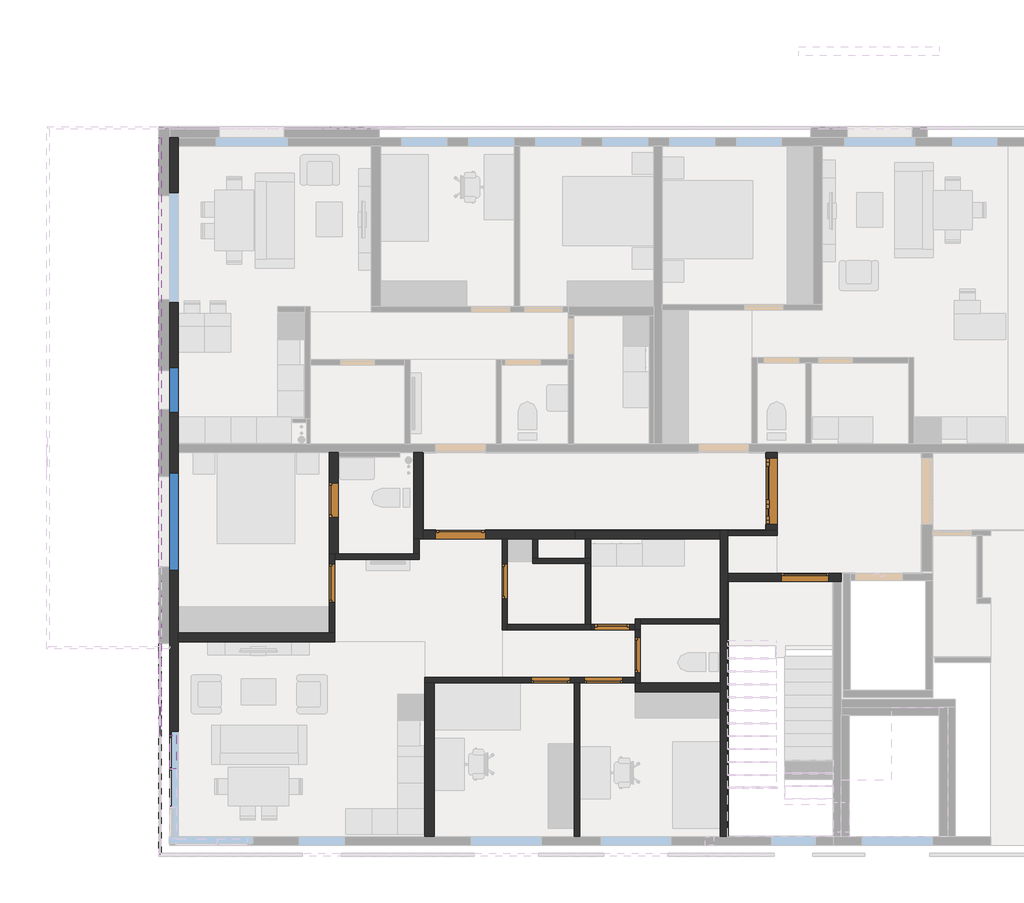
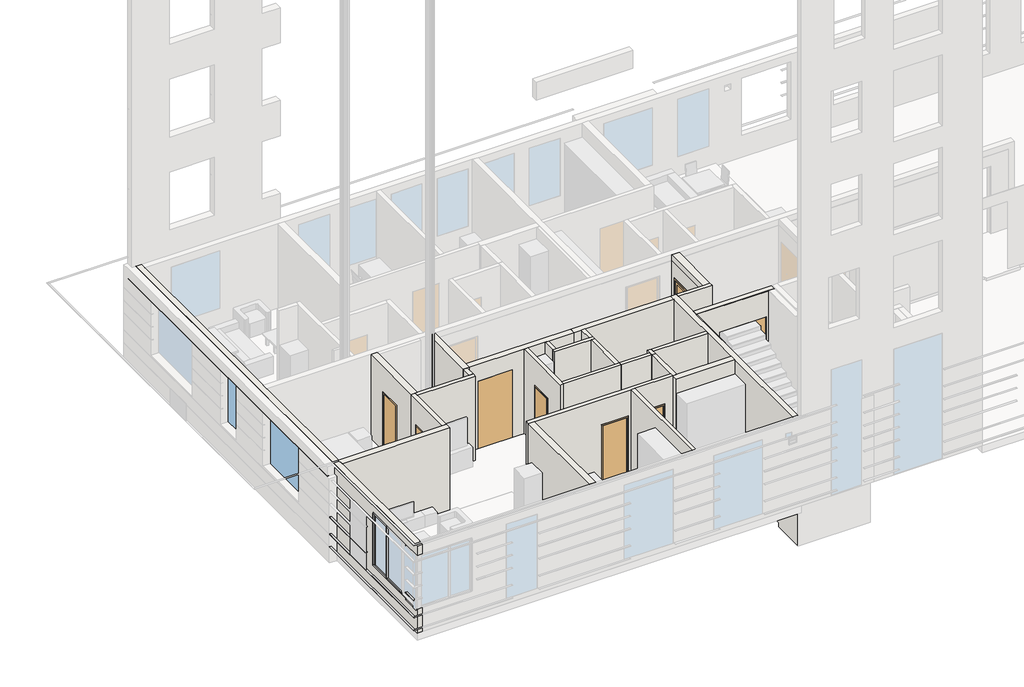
# One storey, part 2 of 11: 32 walls, 20 doors, 5 members, 4 proxies, 2 windows, 1 plate.
"""IFC4 building model written with IfcOpenShell, lengths in millimetres."""

from ifc_helpers import new_model, si_unit, frame, origin, place, context, project, spatial, polyline, outline, extrude, faceted_brep, transform, mapped, element, save
from components import door_d7ee00cb, door_0ca1aa13, door_1f93f5fc, door_3b0bb860, door_b8e875bd, door_c12ba408, door_6199b08a, door_73803761, door_87123fce, door_1132ae02, door_2b45e898, door_fcd13b85, door_ca2bc70d, rectangular_mullion_150x50_083f1865, rectangular_mullion_150x50_dc2b1c3d, rectangular_mullion_150x50_5dc04e1f, rectangular_mullion_150x50_35d6a770, system_panel_83626b8a, window_588b83ed, window_6eaa91db

model = new_model("IFC4")

# Units and contexts
model_context = context("Model", 3, world=origin())
ifc_project = project(units=[si_unit("LENGTHUNIT", "METRE", prefix="MILLI")], contexts=[model_context])

# Site, building, storey
site = spatial("IfcSite", under=ifc_project)
building = spatial("IfcBuilding", under=site)
storey = spatial("IfcBuildingStorey", under=building, Name="02_+4,400_Ж", Elevation=1200.0)

# Proxies
placement = place(None, origin())
element("IfcBuildingElementProxy", 1, Name="Reveals", at=placement, inside=storey, context=model_context, shape_type="SweptSolid", body=[
    extrude(outline(polyline([(128730.0000001, 127799.9999987), (128790.0000001, 127799.9999987), (128790.0000001, 116199.9999987), (128730.0000001, 116199.9999987), (128730.0000001, 127799.9999987)])), frame((0.0, 0.0, 3850.0), z_axis=(0.0, 0.0, 1.0), x_axis=(1.0, 0.0, 0.0)), (0.0, 0.0, 1.0), 5.0),
])
element("IfcBuildingElementProxy", 2, Name="Reveals", at=placement, inside=storey, context=model_context, shape_type="SweptSolid", body=[
    extrude(outline(polyline([(128730.0000001, 116074.9999987), (128790.0000001, 116074.9999987), (128790.0000001, 113979.9999987), (128730.0000001, 113979.9999987), (128730.0000001, 116074.9999987)])), frame((0.0, 0.0, 2485.0), z_axis=(0.0, 0.0, 1.0), x_axis=(1.0, 0.0, 0.0)), (0.0, 0.0, 1.0), 5.0),
    extrude(outline(polyline([(128730.0000001, 111639.9999987), (128790.0000001, 111639.9999987), (128790.0000001, 111209.9999987), (128730.0000001, 111149.9999987), (128730.0000001, 111639.9999987)])), frame((0.0, 0.0, 2485.0), z_axis=(0.0, 0.0, 1.0), x_axis=(1.0, 0.0, 0.0)), (0.0, 0.0, 1.0), 5.0),
])
element("IfcBuildingElementProxy", 3, Name="Reveals", at=placement, inside=storey, context=model_context, shape_type="SweptSolid", body=[
    extrude(outline(polyline([(128730.0000001, 116074.9999987), (128790.0000001, 116074.9999987), (128790.0000001, 111209.9999987), (128730.0000001, 111149.9999987), (128730.0000001, 116074.9999987)])), frame((0.0, 0.0, 1880.0), z_axis=(0.0, 0.0, 1.0), x_axis=(1.0, 0.0, 0.0)), (0.0, 0.0, 1.0), 5.0),
])
element("IfcBuildingElementProxy", 4, Name="Reveals", at=placement, inside=storey, context=model_context, shape_type="SweptSolid", body=[
    extrude(outline(polyline([(128730.0000001, 116074.9999987), (128790.0000001, 116074.9999987), (128790.0000001, 111209.9999987), (128730.0000001, 111149.9999987), (128730.0000001, 116074.9999987)])), frame((0.0, 0.0, 1425.0), z_axis=(0.0, 0.0, 1.0), x_axis=(1.0, 0.0, 0.0)), (0.0, 0.0, 1.0), 5.0),
])

# Doors
door_shape = door_d7ee00cb(model_context)
element("IfcDoor", 5, ObjectType="Dr_Проем-Простой : ДВ", at=placement, inside=storey, context=model_context, shape_type="MappedRepresentation", body=[
    mapped(door_shape, transform((143494.6769838, 117609.9999987, 1200.0), x_axis=(1.0, 0.0, 0.0), y_axis=(0.0, 1.0, 0.0), z_axis=(0.0, 0.0, 1.0))),
])
door_2_shape = door_0ca1aa13(model_context)
element("IfcDoor", 6, ObjectType="Dr_Проем-Простой : ДВ", at=placement, inside=storey, context=model_context, shape_type="MappedRepresentation", body=[
    mapped(door_2_shape, transform((142925.0000002, 119399.6769824, 1200.0), x_axis=(0.0, 1.0, 0.0), y_axis=(-1.0, 0.0, 0.0), z_axis=(0.0, 0.0, 1.0))),
])
door_3_shape = door_1f93f5fc(model_context)
element("IfcDoor", 7, ObjectType="Dr_Проем-Простой : ДВ", at=placement, inside=storey, context=model_context, shape_type="MappedRepresentation", body=[
    mapped(door_3_shape, transform((135509.6769838, 118599.9999987, 1200.0), x_axis=(1.0, 0.0, 0.0), y_axis=(0.0, 1.0, 0.0), z_axis=(0.0, 0.0, 1.0))),
])
door_4_shape = door_3b0bb860(model_context)
element("IfcDoor", 8, ObjectType="Dr_Проем-Простой : ДВ", at=placement, inside=storey, context=model_context, shape_type="MappedRepresentation", body=[
    mapped(door_4_shape, transform((139822.5000001, 115599.6769824, 1200.0), x_axis=(0.0, 1.0, 0.0), y_axis=(-1.0, 0.0, 0.0), z_axis=(0.0, 0.0, 1.0))),
])
element("IfcDoor", 9, ObjectType="Dr_Проем-Простой : ДВ", at=placement, inside=storey, context=model_context, shape_type="MappedRepresentation", body=[
    mapped(door_4_shape, transform((139024.6769838, 116452.4999987, 1200.0), x_axis=(1.0, 0.0, 0.0), y_axis=(0.0, 1.0, 0.0), z_axis=(0.0, 0.0, 1.0))),
])
door_5_shape = door_b8e875bd(model_context)
element("IfcDoor", 10, ObjectType="Dr_Проем-Простой : ДВ", at=placement, inside=storey, context=model_context, shape_type="MappedRepresentation", body=[
    mapped(door_5_shape, transform((132742.5000001, 117269.6769824, 1200.0), x_axis=(0.0, 1.0, 0.0), y_axis=(-1.0, 0.0, 0.0), z_axis=(0.0, 0.0, 1.0))),
])
element("IfcDoor", 11, ObjectType="Dr_Проем-Простой : ДВ", at=placement, inside=storey, context=model_context, shape_type="MappedRepresentation", body=[
    mapped(door_5_shape, transform((138010.3230165, 115227.4999987, 1200.0), x_axis=(-1.0, 0.0, 0.0), y_axis=(0.0, -1.0, 0.0), z_axis=(0.0, 0.0, 1.0))),
])
element("IfcDoor", 12, ObjectType="Dr_Проем-Простой : ДВ", at=placement, inside=storey, context=model_context, shape_type="MappedRepresentation", body=[
    mapped(door_5_shape, transform((139235.3230165, 115227.4999987, 1200.0), x_axis=(-1.0, 0.0, 0.0), y_axis=(0.0, -1.0, 0.0), z_axis=(0.0, 0.0, 1.0))),
])
element("IfcDoor", 13, ObjectType="Dr_Проем-Простой : ДВ", at=placement, inside=storey, context=model_context, shape_type="MappedRepresentation", body=[
    mapped(door_4_shape, transform((136742.5000001, 117309.6769824, 1200.0), x_axis=(0.0, 1.0, 0.0), y_axis=(-1.0, 0.0, 0.0), z_axis=(0.0, 0.0, 1.0))),
])
door_6_shape = door_c12ba408(model_context)
element("IfcDoor", 14, ObjectType="Dr_Проем-Простой : ДВ", at=placement, inside=storey, context=model_context, shape_type="MappedRepresentation", body=[
    mapped(door_6_shape, transform((132785.0000001, 119194.6769824, 1200.0), x_axis=(0.0, 1.0, 0.0), y_axis=(-1.0, 0.0, 0.0), z_axis=(0.0, 0.0, 1.0))),
])
door_7_shape = door_6199b08a(model_context)
element("IfcDoor", 15, ObjectType="Dr_Дверь_v2.1 : ДМ Мд1 Зв3 Оп Г Брг 21-9", at=placement, inside=storey, context=model_context, shape_type="MappedRepresentation", body=[
    mapped(door_7_shape, transform((132742.5000001, 117349.9999987, 1200.0), x_axis=(0.0, 1.0, 0.0), y_axis=(-1.0, 0.0, 0.0), z_axis=(0.0, 0.0, 1.0))),
])
door_8_shape = door_73803761(model_context)
element("IfcDoor", 16, ObjectType="Dr_Дверь_v2.1 : ДВПС Оп Г 24-11,5 Л EI30", at=placement, inside=storey, context=model_context, shape_type="MappedRepresentation", body=[
    mapped(door_8_shape, transform((135590.0000001, 118599.9999987, 1200.0), x_axis=(1.0, 0.0, 0.0), y_axis=(0.0, 1.0, 0.0), z_axis=(0.0, 0.0, 1.0))),
])
door_9_shape = door_87123fce(model_context)
element("IfcDoor", 17, ObjectType="Dr_Дверь_v2.1 : ДМ Мд1 Зв3 Оп Г Брг 21-9 Л", at=placement, inside=storey, context=model_context, shape_type="MappedRepresentation", body=[
    mapped(door_9_shape, transform((139155.0000001, 115227.4999987, 1200.0), x_axis=(-1.0, 0.0, 0.0), y_axis=(0.0, -1.0, 0.0), z_axis=(0.0, 0.0, 1.0))),
])
door_10_shape = door_1132ae02(model_context)
element("IfcDoor", 18, ObjectType="Dr_Дверь_v2.1 : ДС Мд1 Оп Г Брг 21-8", at=placement, inside=storey, context=model_context, shape_type="MappedRepresentation", body=[
    mapped(door_10_shape, transform((139105.0000001, 116452.4999987, 1200.0), x_axis=(1.0, 0.0, 0.0), y_axis=(0.0, 1.0, 0.0), z_axis=(0.0, 0.0, 1.0))),
])
element("IfcDoor", 19, ObjectType="Dr_Дверь_v2.1 : ДМ Мд1 Зв3 Оп Г Брг 21-9", at=placement, inside=storey, context=model_context, shape_type="MappedRepresentation", body=[
    mapped(door_7_shape, transform((137930.0000001, 115227.4999987, 1200.0), x_axis=(-1.0, 0.0, 0.0), y_axis=(0.0, -1.0, 0.0), z_axis=(0.0, 0.0, 1.0))),
])
element("IfcDoor", 20, ObjectType="Dr_Дверь_v2.1 : ДС Мд1 Оп Г Брг 21-8", at=placement, inside=storey, context=model_context, shape_type="MappedRepresentation", body=[
    mapped(door_10_shape, transform((139822.5000001, 115679.9999987, 1200.0), x_axis=(0.0, 1.0, 0.0), y_axis=(-1.0, 0.0, 0.0), z_axis=(0.0, 0.0, 1.0))),
])
element("IfcDoor", 21, ObjectType="Dr_Дверь_v2.1 : ДМ Мд1 Оп Г Брг 21-8", at=placement, inside=storey, context=model_context, shape_type="MappedRepresentation", body=[
    mapped(door_10_shape, transform((136742.5000001, 117389.9999987, 1200.0), x_axis=(0.0, 1.0, 0.0), y_axis=(-1.0, 0.0, 0.0), z_axis=(0.0, 0.0, 1.0))),
])
door_11_shape = door_2b45e898(model_context)
element("IfcDoor", 22, ObjectType="Dr_Дверь_v2.1 : ДС Мд1 Оп Г Брг 21-8 Л", at=placement, inside=storey, context=model_context, shape_type="MappedRepresentation", body=[
    mapped(door_11_shape, transform((132785.0000001, 119274.9999987, 1200.0), x_axis=(0.0, 1.0, 0.0), y_axis=(-1.0, 0.0, 0.0), z_axis=(0.0, 0.0, 1.0))),
])
door_12_shape = door_fcd13b85(model_context)
element("IfcDoor", 23, ObjectType="Dr_Дверь_v2.1 : ДВСТД Оп Ос 21-11 EIS60", at=placement, inside=storey, context=model_context, shape_type="MappedRepresentation", body=[
    mapped(door_12_shape, transform((143575.0000001, 117609.9999987, 1200.0), x_axis=(1.0, 0.0, 0.0), y_axis=(0.0, 1.0, 0.0), z_axis=(0.0, 0.0, 1.0))),
])
door_13_shape = door_ca2bc70d(model_context)
element("IfcDoor", 24, ObjectType="Dr_Дверь_v2.1 : ДВСТД Дп Ос 23-15 EIS60", at=placement, inside=storey, context=model_context, shape_type="MappedRepresentation", body=[
    mapped(door_13_shape, transform((142925.0000002, 119479.9999987, 1200.0), x_axis=(0.0, 1.0, 0.0), y_axis=(-1.0, 0.0, 0.0), z_axis=(0.0, 0.0, 1.0))),
])

# Members
rectangular_mullion_150x50_shape = rectangular_mullion_150x50_083f1865(model_context)
element("IfcMember", 25, ObjectType="Rectangular Mullion : 150x50", at=placement, inside=storey, context=model_context, shape_type="MappedRepresentation", body=[
    mapped(rectangular_mullion_150x50_shape, transform((129055.0000001, 113174.9999987, 2000.0), x_axis=(0.0, -1.0, 0.0), y_axis=(-1.0, 0.0, 0.0), z_axis=(0.0, 0.0, -1.0))),
])
rectangular_mullion_150x50_2_shape = rectangular_mullion_150x50_dc2b1c3d(model_context)
element("IfcMember", 26, ObjectType="Rectangular Mullion : 150x50", at=placement, inside=storey, context=model_context, shape_type="MappedRepresentation", body=[
    mapped(rectangular_mullion_150x50_2_shape, transform((129055.0000001, 113949.9999987, 3800.0), x_axis=(0.0, 1.0, 0.0), y_axis=(-1.0, 0.0, 0.0), z_axis=(0.0, 0.0, 1.0))),
])
rectangular_mullion_150x50_3_shape = rectangular_mullion_150x50_5dc04e1f(model_context)
element("IfcMember", 27, ObjectType="Rectangular Mullion : 150x50", at=placement, inside=storey, context=model_context, shape_type="MappedRepresentation", body=[
    mapped(rectangular_mullion_150x50_3_shape, transform((129055.0000001, 113949.9999987, 1950.0), x_axis=(0.0, 0.0, -1.0), y_axis=(-1.0, 0.0, 0.0), z_axis=(0.0, 1.0, 0.0))),
])
rectangular_mullion_150x50_4_shape = rectangular_mullion_150x50_35d6a770(model_context)
element("IfcMember", 28, ObjectType="Rectangular Mullion : 150x50", at=placement, inside=storey, context=model_context, shape_type="MappedRepresentation", body=[
    mapped(rectangular_mullion_150x50_4_shape, transform((129055.0000001, 113174.9999987, 1950.0), x_axis=(0.0, 0.0, -1.0), y_axis=(-1.0, 0.0, 0.0), z_axis=(0.0, 1.0, 0.0))),
])
element("IfcMember", 29, ObjectType="Rectangular Mullion : 150x50", at=placement, inside=storey, context=model_context, shape_type="MappedRepresentation", body=[
    mapped(rectangular_mullion_150x50_3_shape, transform((129055.0000001, 113174.9999987, 3850.0), x_axis=(0.0, 0.0, 1.0), y_axis=(-1.0, 0.0, 0.0), z_axis=(0.0, -1.0, 0.0))),
])

# Plate
system_panel_shape = system_panel_83626b8a(model_context)
element("IfcPlate", 30, ObjectType="System Panel : стекло_смещение_0", at=placement, inside=storey, context=model_context, shape_type="MappedRepresentation", body=[
    mapped(system_panel_shape, transform((129055.0000001, 113549.9999987, 2000.0), x_axis=(0.0, -1.0, 0.0), y_axis=(1.0, 0.0, 0.0), z_axis=(0.0, 0.0, 1.0))),
])

# Walls
element("IfcWall", 31, ObjectType="BW_SUB_SKZ_INT_80+40+80=200_Тип П7-------", at=placement, inside=storey, context=model_context, shape_type="Brep", body=[
    faceted_brep([(134840.0000001, 118499.9999987, 1100.0), (134840.0000001, 118699.9999987, 1100.0), (134840.0000001, 120499.9999987, 1100.0), (134840.0000001, 120499.9999987, 4200.0), (134840.0000001, 118699.9999987, 4200.0), (134840.0000001, 118499.9999987, 4200.0), (134640.0000001, 118499.9999987, 1100.0), (134640.0000001, 118499.9999987, 4200.0), (134640.0000001, 120499.9999987, 4200.0), (134640.0000001, 120499.9999987, 1100.0)], [[[0, 1, 2, 3, 4, 5]], [[6, 7, 8, 9]], [[2, 1, 0, 6, 9]], [[3, 2, 9, 8]], [[5, 4, 3, 8, 7]], [[0, 5, 7, 6]]]),
])
element("IfcWall", 32, ObjectType="BW_SUB_GKL_INT_125_Тип П9.1-------", at=placement, inside=storey, context=model_context, shape_type="Brep", body=[
    faceted_brep([(136680.0000001, 116389.9999987, 4200.0), (136680.0000001, 118499.9999987, 4200.0), (136680.0000001, 118499.9999987, 1180.0), (136680.0000001, 117914.9999987, 1180.0), (136680.0000001, 117914.9999987, 3300.0), (136680.0000001, 117114.9999987, 3300.0), (136680.0000001, 117114.9999987, 1180.0), (136680.0000001, 116389.9999987, 1180.0), (136805.0000001, 118499.9999987, 4200.0), (136805.0000001, 116514.9999987, 4200.0), (136805.0000001, 116389.9999987, 4200.0), (136805.0000001, 116389.9999987, 1180.0), (136805.0000001, 116514.9999987, 1180.0), (136805.0000001, 117114.9999987, 1180.0), (136805.0000001, 117114.9999987, 3300.0), (136805.0000001, 117914.9999987, 3300.0), (136805.0000001, 117914.9999987, 1180.0), (136805.0000001, 118499.9999987, 1180.0)], [[[0, 1, 2, 3, 4, 5, 6, 7]], [[8, 9, 10, 11, 12, 13, 14, 15, 16, 17]], [[2, 17, 16, 3]], [[11, 7, 6, 13, 12]], [[1, 0, 10, 9, 8]], [[2, 1, 8, 17]], [[5, 14, 13, 6]], [[15, 4, 3, 16]], [[14, 5, 4, 15]], [[0, 7, 11, 10]]]),
])
element("IfcWall", 33, ObjectType="BW_SUB_GKL_INT_125_Тип П9.3-------", at=placement, inside=storey, context=model_context, shape_type="Brep", body=[
    faceted_brep([(139760.0000001, 116649.9999987, 1180.0), (139760.0000001, 116514.9999987, 1180.0), (139760.0000001, 116389.9999987, 1180.0), (139760.0000001, 116389.9999987, 4200.0), (139760.0000001, 116514.9999987, 4200.0), (139760.0000001, 116649.9999987, 4200.0), (139885.0000001, 116649.9999987, 1180.0), (139885.0000001, 116649.9999987, 4200.0), (139885.0000001, 116524.9999987, 4200.0), (139885.0000001, 116389.9999987, 4200.0), (139885.0000001, 116389.9999987, 1180.0), (139885.0000001, 116524.9999987, 1180.0)], [[[0, 1, 2, 3, 4, 5]], [[6, 7, 8, 9, 10, 11]], [[2, 1, 0, 6, 11, 10]], [[5, 4, 3, 9, 8, 7]], [[0, 5, 7, 6]], [[3, 2, 10, 9]]]),
])
element("IfcWall", 34, ObjectType="BW_SUB_GKL_INT_125_Тип П9.1-------", at=placement, inside=storey, context=model_context, shape_type="Brep", body=[
    faceted_brep([(139760.0000001, 115164.9999987, 1180.0), (139760.0000001, 115164.9999987, 4200.0), (138480.0000001, 115164.9999987, 4200.0), (138355.0000001, 115164.9999987, 4200.0), (135105.0000001, 115164.9999987, 4200.0), (134895.0000001, 115164.9999987, 4200.0), (134895.0000001, 115164.9999987, 1180.0), (135105.0000001, 115164.9999987, 1180.0), (137355.0000001, 115164.9999987, 1180.0), (137355.0000001, 115164.9999987, 3300.0), (138255.0000001, 115164.9999987, 3300.0), (138255.0000001, 115164.9999987, 1180.0), (138355.0000001, 115164.9999987, 1180.0), (138480.0000001, 115164.9999987, 1180.0), (138580.0000001, 115164.9999987, 1180.0), (138580.0000001, 115164.9999987, 3300.0), (139480.0000001, 115164.9999987, 3300.0), (139480.0000001, 115164.9999987, 1180.0), (139760.0000001, 115289.9999987, 4200.0), (139760.0000001, 115289.9999987, 1180.0), (139480.0000001, 115289.9999987, 1180.0), (139480.0000001, 115289.9999987, 3300.0), (138580.0000001, 115289.9999987, 3300.0), (138580.0000001, 115289.9999987, 1180.0), (138255.0000001, 115289.9999987, 1180.0), (138255.0000001, 115289.9999987, 3300.0), (137355.0000001, 115289.9999987, 3300.0), (137355.0000001, 115289.9999987, 1180.0), (134895.0000001, 115289.9999987, 1180.0), (134895.0000001, 115289.9999987, 4200.0)], [[[0, 1, 2, 3, 4, 5, 6, 7, 8, 9, 10, 11, 12, 13, 14, 15, 16, 17]], [[18, 19, 20, 21, 22, 23, 24, 25, 26, 27, 28, 29]], [[11, 24, 23, 14, 13, 12]], [[27, 8, 7, 6, 28]], [[19, 0, 17, 20]], [[1, 0, 19, 18]], [[5, 4, 3, 2, 1, 18, 29]], [[11, 10, 25, 24]], [[9, 8, 27, 26]], [[10, 9, 26, 25]], [[28, 6, 5, 29]], [[16, 21, 20, 17]], [[22, 15, 14, 23]], [[21, 16, 15, 22]]]),
])
element("IfcWall", 35, ObjectType="BW_SUB_GKL_INT_125_Тип П9.1-------", at=placement, inside=storey, context=model_context, shape_type="SweptSolid", body=[
    extrude(outline(polyline([(138355.0000001, 111599.9999987), (138355.0000001, 115164.9999987), (138480.0000001, 115164.9999987), (138480.0000001, 111599.9999987), (138355.0000001, 111599.9999987)])), frame((0.0, 0.0, 1180.0), z_axis=(0.0, 0.0, 1.0), x_axis=(1.0, 0.0, 0.0)), (0.0, 0.0, 1.0), 3020.0),
])
element("IfcWall", 36, ObjectType="BW_SUB_GKL_INT_210_Тип П10.2-------", at=placement, inside=storey, context=model_context, shape_type="Brep", body=[
    faceted_brep([(139760.0000001, 114954.9999987, 1180.0), (141730.0000002, 114954.9999987, 1180.0), (141730.0000002, 114954.9999987, 4200.0), (139760.0000001, 114954.9999987, 4200.0), (139760.0000001, 115164.9999987, 1180.0), (139760.0000001, 115164.9999987, 4200.0), (139885.0000001, 115164.9999987, 4200.0), (141730.0000002, 115164.9999987, 4200.0), (141730.0000002, 115164.9999987, 1180.0), (139885.0000001, 115164.9999987, 1180.0)], [[[0, 1, 2, 3]], [[4, 5, 6, 7, 8, 9]], [[1, 0, 4, 9, 8]], [[2, 1, 8, 7]], [[3, 2, 7, 6, 5]], [[0, 3, 5, 4]]]),
])
element("IfcWall", 37, ObjectType="BW_SUB_GKL_INT_125_Тип П9.2-------", at=placement, inside=storey, context=model_context, shape_type="SweptSolid", body=[
    extrude(outline(polyline([(138730.0000001, 117929.9999987), (138730.0000001, 116514.9999987), (138605.0000001, 116514.9999987), (138605.0000001, 117929.9999987), (138730.0000001, 117929.9999987)])), frame((0.0, 0.0, 1180.0), z_axis=(0.0, 0.0, 1.0), x_axis=(1.0, 0.0, 0.0)), (0.0, 0.0, 1.0), 3020.0),
])
element("IfcWall", 38, ObjectType="BW_SUB_GKL_INT_125_Тип П9.1-------", at=placement, inside=storey, context=model_context, shape_type="Brep", body=[
    faceted_brep([(136805.0000001, 116389.9999987, 1180.0), (138730.0000001, 116389.9999987, 1180.0), (138730.0000001, 116389.9999987, 4200.0), (136805.0000001, 116389.9999987, 4200.0), (136805.0000001, 116514.9999987, 1180.0), (136805.0000001, 116514.9999987, 4200.0), (138605.0000001, 116514.9999987, 4200.0), (138730.0000001, 116514.9999987, 4200.0), (138730.0000001, 116514.9999987, 1180.0), (138605.0000001, 116514.9999987, 1180.0)], [[[0, 1, 2, 3]], [[4, 5, 6, 7, 8, 9]], [[1, 0, 4, 9, 8]], [[3, 2, 7, 6, 5]], [[0, 3, 5, 4]], [[2, 1, 8, 7]]]),
])
element("IfcWall", 39, ObjectType="BW_SUB_GKL_INT_210_Тип П10.1-------", at=placement, inside=storey, context=model_context, shape_type="SweptSolid", body=[
    extrude(outline(polyline([(134895.0000001, 111599.9999987), (134895.0000001, 115164.9999987), (135105.0000001, 115164.9999987), (135105.0000001, 111599.9999987), (134895.0000001, 111599.9999987)])), frame((0.0, 0.0, 1180.0), z_axis=(0.0, 0.0, 1.0), x_axis=(1.0, 0.0, 0.0)), (0.0, 0.0, 1.0), 3020.0),
])
element("IfcWall", 40, ObjectType="BW_SUB_GKL_INT_210_Тип П10.1-------", at=placement, inside=storey, context=model_context, shape_type="Brep", body=[
    faceted_brep([(129180.0000001, 116114.9999987, 1180.0), (132805.0000001, 116114.9999987, 1180.0), (132805.0000001, 116114.9999987, 4200.0), (129180.0000001, 116114.9999987, 4200.0), (129180.0000001, 116324.9999987, 1180.0), (129180.0000001, 116324.9999987, 4200.0), (132680.0000001, 116324.9999987, 4200.0), (132805.0000001, 116324.9999987, 4200.0), (132805.0000001, 116324.9999987, 1180.0), (132680.0000001, 116324.9999987, 1180.0)], [[[0, 1, 2, 3]], [[4, 5, 6, 7, 8, 9]], [[1, 0, 4, 9, 8]], [[3, 2, 7, 6, 5]], [[0, 3, 5, 4]], [[2, 1, 8, 7]]]),
])
element("IfcWall", 41, ObjectType="BW_SUB_GKL_INT_125_Тип П9.1-------", at=placement, inside=storey, context=model_context, shape_type="Brep", body=[
    faceted_brep([(132805.0000001, 118149.9999987, 4200.0), (132805.0000001, 118024.9999987, 4200.0), (132805.0000001, 116324.9999987, 4200.0), (132805.0000001, 116324.9999987, 1180.0), (132805.0000001, 117024.9999987, 1180.0), (132805.0000001, 117024.9999987, 3300.0), (132805.0000001, 117924.9999987, 3300.0), (132805.0000001, 117924.9999987, 1180.0), (132805.0000001, 118024.9999987, 1180.0), (132805.0000001, 118149.9999987, 1180.0), (132680.0000001, 116324.9999987, 4200.0), (132680.0000001, 118149.9999987, 4200.0), (132680.0000001, 118149.9999987, 1180.0), (132680.0000001, 117924.9999987, 1180.0), (132680.0000001, 117924.9999987, 3300.0), (132680.0000001, 117024.9999987, 3300.0), (132680.0000001, 117024.9999987, 1180.0), (132680.0000001, 116324.9999987, 1180.0)], [[[0, 1, 2, 3, 4, 5, 6, 7, 8, 9]], [[10, 11, 12, 13, 14, 15, 16, 17]], [[3, 17, 16, 4]], [[12, 9, 8, 7, 13]], [[2, 1, 0, 11, 10]], [[3, 2, 10, 17]], [[15, 5, 4, 16]], [[6, 14, 13, 7]], [[5, 15, 14, 6]], [[0, 9, 12, 11]]]),
])
element("IfcWall", 42, ObjectType="BW_SUB_GKL_INT_125_Тип П9.2-------", at=placement, inside=storey, context=model_context, shape_type="Brep", body=[
    faceted_brep([(132805.0000001, 118024.9999987, 1180.0), (134765.0000001, 118024.9999987, 1180.0), (134765.0000001, 118024.9999987, 4200.0), (132805.0000001, 118024.9999987, 4200.0), (132805.0000001, 118149.9999987, 1180.0), (132805.0000001, 118149.9999987, 4200.0), (132890.0000001, 118149.9999987, 4200.0), (134640.0000001, 118149.9999987, 4200.0), (134765.0000001, 118149.9999987, 4200.0), (134765.0000001, 118149.9999987, 1180.0), (134640.0000001, 118149.9999987, 1180.0), (132890.0000001, 118149.9999987, 1180.0)], [[[0, 1, 2, 3]], [[4, 5, 6, 7, 8, 9, 10, 11]], [[1, 0, 4, 11, 10, 9]], [[3, 2, 8, 7, 6, 5]], [[2, 1, 9, 8]], [[0, 3, 5, 4]]]),
])
element("IfcWall", 43, ObjectType="BW_SUB_GKL_INT_125_Тип П9.2-------", at=placement, inside=storey, context=model_context, shape_type="SweptSolid", body=[
    extrude(outline(polyline([(134765.0000001, 118499.9999987), (134765.0000001, 118149.9999987), (134640.0000001, 118149.9999987), (134640.0000001, 118499.9999987), (134765.0000001, 118499.9999987)])), frame((0.0, 0.0, 1180.0), z_axis=(0.0, 0.0, 1.0), x_axis=(1.0, 0.0, 0.0)), (0.0, 0.0, 1.0), 3020.0),
])
element("IfcWall", 44, ObjectType="BW_SUB_GKL_INT_210_Тип П10.2-------", at=placement, inside=storey, context=model_context, shape_type="Brep", body=[
    faceted_brep([(132890.0000001, 120499.9999987, 1180.0), (132890.0000001, 120499.9999987, 4200.0), (132890.0000001, 118149.9999987, 4200.0), (132890.0000001, 118149.9999987, 1180.0), (132890.0000001, 118999.9999987, 1180.0), (132890.0000001, 118999.9999987, 3300.0), (132890.0000001, 119799.9999987, 3300.0), (132890.0000001, 119799.9999987, 1180.0), (132680.0000001, 120499.9999987, 4200.0), (132680.0000001, 120499.9999987, 1180.0), (132680.0000001, 119799.9999987, 1180.0), (132680.0000001, 119799.9999987, 3300.0), (132680.0000001, 118999.9999987, 3300.0), (132680.0000001, 118999.9999987, 1180.0), (132680.0000001, 118149.9999987, 1180.0), (132680.0000001, 118149.9999987, 4200.0), (132805.0000001, 118149.9999987, 1180.0), (132805.0000001, 118149.9999987, 4200.0)], [[[0, 1, 2, 3, 4, 5, 6, 7]], [[8, 9, 10, 11, 12, 13, 14, 15]], [[9, 0, 7, 10]], [[3, 16, 14, 13, 4]], [[1, 0, 9, 8]], [[2, 1, 8, 15, 17]], [[12, 5, 4, 13]], [[6, 11, 10, 7]], [[5, 12, 11, 6]], [[3, 2, 17, 15, 14, 16]]]),
])
element("IfcWall", 45, ObjectType="BW_SUB_BrF_INT_120_Тип П1-------", at=placement, inside=storey, context=model_context, shape_type="Brep", body=[
    faceted_brep([(138730.0000001, 118049.9999987, 1100.0), (138610.0000001, 118049.9999987, 1100.0), (137510.0000001, 118049.9999987, 1100.0), (137390.0000001, 118049.9999987, 1100.0), (137390.0000001, 118049.9999987, 4200.0), (137510.0000001, 118049.9999987, 4200.0), (138610.0000001, 118049.9999987, 4200.0), (138730.0000001, 118049.9999987, 4200.0), (138730.0000001, 117929.9999987, 1100.0), (138730.0000001, 117929.9999987, 4200.0), (137390.0000001, 117929.9999987, 4200.0), (137390.0000001, 117929.9999987, 1100.0)], [[[0, 1, 2, 3, 4, 5, 6, 7]], [[8, 9, 10, 11]], [[3, 2, 1, 0, 8, 11]], [[7, 6, 5, 4, 10, 9]], [[4, 3, 11, 10]], [[0, 7, 9, 8]]]),
])
element("IfcWall", 46, ObjectType="BW_SUB_BrF_INT_120_Тип П1-------", at=placement, inside=storey, context=model_context, shape_type="SweptSolid", body=[
    extrude(outline(polyline([(137510.0000001, 118499.9999987), (137510.0000001, 118049.9999987), (137390.0000001, 118049.9999987), (137390.0000001, 118499.9999987), (137510.0000001, 118499.9999987)])), frame((0.0, 0.0, 1100.0), z_axis=(0.0, 0.0, 1.0), x_axis=(1.0, 0.0, 0.0)), (0.0, 0.0, 1.0), 3100.0),
])
element("IfcWall", 47, ObjectType="BW_SUB_BrF_INT_120_Тип П1-------", at=placement, inside=storey, context=model_context, shape_type="SweptSolid", body=[
    extrude(outline(polyline([(138730.0000001, 118499.9999987), (138730.0000001, 118049.9999987), (138610.0000001, 118049.9999987), (138610.0000001, 118499.9999987), (138730.0000001, 118499.9999987)])), frame((0.0, 0.0, 1100.0), z_axis=(0.0, 0.0, 1.0), x_axis=(1.0, 0.0, 0.0)), (0.0, 0.0, 1.0), 3100.0),
])
element("IfcWall", 48, ObjectType="BW_SUB_GKL_INT_125_Тип П9.3-------", at=placement, inside=storey, context=model_context, shape_type="SweptSolid", body=[
    extrude(outline(polyline([(141730.0000002, 116524.9999987), (139885.0000001, 116524.9999987), (139885.0000001, 116649.9999987), (141730.0000002, 116649.9999987), (141730.0000002, 116524.9999987)])), frame((0.0, 0.0, 1180.0), z_axis=(0.0, 0.0, 1.0), x_axis=(1.0, 0.0, 0.0)), (0.0, 0.0, 1.0), 3020.0),
])
element("IfcWall", 49, ObjectType="BW_SUB_SKZ_INT_80+40+80=200_Тип П7-------", at=placement, inside=storey, context=model_context, shape_type="Brep", body=[
    faceted_brep([(134840.0000001, 118699.9999987, 4200.0), (138360.0000002, 118699.9999987, 4200.0), (138360.0000002, 118699.9999987, 1100.0), (136290.0000001, 118699.9999987, 1100.0), (136290.0000001, 118699.9999987, 1200.0), (136290.0000001, 118699.9999987, 3600.0), (135140.0000001, 118699.9999987, 3600.0), (135140.0000001, 118699.9999987, 1200.0), (135140.0000001, 118699.9999987, 1100.0), (134840.0000001, 118699.9999987, 1100.0), (138360.0000002, 118499.9999987, 4200.0), (134840.0000001, 118499.9999987, 4200.0), (134840.0000001, 118499.9999987, 1100.0), (135140.0000001, 118499.9999987, 1100.0), (135140.0000001, 118499.9999987, 3600.0), (136290.0000001, 118499.9999987, 3600.0), (136290.0000001, 118499.9999987, 1100.0), (138360.0000002, 118499.9999987, 1100.0)], [[[0, 1, 2, 3, 4, 5, 6, 7, 8, 9]], [[10, 11, 12, 13, 14, 15, 16, 17]], [[2, 17, 16, 3]], [[12, 9, 8, 13]], [[1, 0, 11, 10]], [[2, 1, 10, 17]], [[0, 9, 12, 11]], [[6, 14, 13, 8, 7]], [[15, 5, 4, 3, 16]], [[14, 6, 5, 15]]]),
])
element("IfcWall", 50, ObjectType="BW_SUB_BrF_INT_250_Тип П2-------", at=placement, inside=storey, context=model_context, shape_type="Brep", body=[
    faceted_brep([(143050.0000002, 120499.9999987, 1100.0), (143050.0000002, 120499.9999987, 4200.0), (143050.0000002, 118699.9999987, 4200.0), (143050.0000002, 118699.9999987, 1100.0), (143050.0000002, 118839.9999987, 1100.0), (143050.0000002, 118839.9999987, 3500.0), (143050.0000002, 120369.9999987, 3500.0), (143050.0000002, 120369.9999987, 1100.0), (142800.0000002, 120499.9999987, 4200.0), (142800.0000002, 120499.9999987, 1100.0), (142800.0000002, 120369.9999987, 1100.0), (142800.0000002, 120369.9999987, 1200.0), (142800.0000002, 120369.9999987, 3500.0), (142800.0000002, 118839.9999987, 3500.0), (142800.0000002, 118839.9999987, 1200.0), (142800.0000002, 118839.9999987, 1100.0), (142800.0000002, 118699.9999987, 1100.0), (142800.0000002, 118699.9999987, 4200.0)], [[[0, 1, 2, 3, 4, 5, 6, 7]], [[8, 9, 10, 11, 12, 13, 14, 15, 16, 17]], [[9, 0, 7, 10]], [[3, 16, 15, 4]], [[1, 0, 9, 8]], [[2, 1, 8, 17]], [[13, 5, 4, 15, 14]], [[6, 12, 11, 10, 7]], [[5, 13, 12, 6]], [[3, 2, 17, 16]]]),
])
element("IfcWall", 51, ObjectType="BW_SUB_BrF_INT_120_Тип П1-------", at=placement, inside=storey, context=model_context, shape_type="Brep", body=[
    faceted_brep([(143050.0000002, 118699.9999987, 1100.0), (142800.0000002, 118699.9999987, 1100.0), (141910.0000002, 118699.9999987, 1100.0), (141910.0000002, 118699.9999987, 4200.0), (142800.0000002, 118699.9999987, 4200.0), (143050.0000002, 118699.9999987, 4200.0), (143050.0000002, 118579.9999987, 1100.0), (143050.0000002, 118579.9999987, 4200.0), (141910.0000002, 118579.9999987, 4200.0), (141910.0000002, 118579.9999987, 1100.0)], [[[0, 1, 2, 3, 4, 5]], [[6, 7, 8, 9]], [[2, 1, 0, 6, 9]], [[3, 2, 9, 8]], [[5, 4, 3, 8, 7]], [[0, 5, 7, 6]]]),
])
element("IfcWall", 52, ObjectType="BW_FN2_10_внутр отделка МОП-------", at=placement, inside=storey, context=model_context, shape_type="Brep", body=[
    faceted_brep([(134840.0000001, 120489.9999987, 1200.0), (134840.0000001, 118699.9999987, 1200.0), (134840.0000001, 118699.9999987, 4000.0), (134840.0000001, 120489.9999987, 4000.0), (134850.0000001, 120489.9999987, 1200.0), (134850.0000001, 120489.9999987, 4000.0), (134850.0000001, 118709.9999987, 4000.0), (134850.0000001, 118699.9999987, 4000.0), (134850.0000001, 118699.9999987, 1200.0), (134850.0000001, 118709.9999987, 1200.0)], [[[0, 1, 2, 3]], [[4, 5, 6, 7, 8, 9]], [[1, 0, 4, 9, 8]], [[3, 2, 7, 6, 5]], [[2, 1, 8, 7]], [[0, 3, 5, 4]]]),
])
element("IfcWall", 53, ObjectType="BW_FN2_10_внутр отделка МОП-------", at=placement, inside=storey, context=model_context, shape_type="Brep", body=[
    faceted_brep([(142800.0000002, 118699.9999987, 4000.0), (134850.0000001, 118699.9999987, 4000.0), (134850.0000001, 118699.9999987, 1200.0), (135140.0000001, 118699.9999987, 1200.0), (135140.0000001, 118699.9999987, 3600.0), (136290.0000001, 118699.9999987, 3600.0), (136290.0000001, 118699.9999987, 1200.0), (142800.0000002, 118699.9999987, 1200.0), (134850.0000001, 118709.9999987, 4000.0), (142790.0000002, 118709.9999987, 4000.0), (142800.0000002, 118709.9999987, 4000.0), (142800.0000002, 118709.9999987, 1200.0), (142790.0000002, 118709.9999987, 1200.0), (136290.0000001, 118709.9999987, 1200.0), (136290.0000001, 118709.9999987, 3600.0), (135140.0000001, 118709.9999987, 3600.0), (135140.0000001, 118709.9999987, 1200.0), (134850.0000001, 118709.9999987, 1200.0)], [[[0, 1, 2, 3, 4, 5, 6, 7]], [[8, 9, 10, 11, 12, 13, 14, 15, 16, 17]], [[11, 7, 6, 13, 12]], [[2, 17, 16, 3]], [[1, 0, 10, 9, 8]], [[0, 7, 11, 10]], [[2, 1, 8, 17]], [[15, 4, 3, 16]], [[5, 14, 13, 6]], [[4, 15, 14, 5]]]),
])
element("IfcWall", 54, ObjectType="BW_FN2_10_внутр отделка МОП-------", at=placement, inside=storey, context=model_context, shape_type="SweptSolid", body=[
    extrude(outline(polyline([(118709.9999987, 4000.0), (120489.9999987, 4000.0), (120489.9999987, 1200.0), (120369.9999987, 1200.0), (120369.9999987, 3500.0), (118839.9999987, 3500.0), (118839.9999987, 1200.0), (118709.9999987, 1200.0), (118709.9999987, 4000.0)])), frame((142790.0000002, 0.0, 0.0), z_axis=(1.0, 0.0, 0.0), x_axis=(0.0, 1.0, 0.0)), (0.0, 0.0, 1.0), 10.0),
])
element("IfcWall", 55, ObjectType="BW_FN2_10_внутр отделка ЛК-------", at=placement, inside=storey, context=model_context, shape_type="Brep", body=[
    faceted_brep([(141910.0000002, 117519.9999987, 4200.0), (144350.0000001, 117519.9999987, 4200.0), (144350.0000001, 117519.9999987, 1200.0), (144250.0000001, 117519.9999987, 1200.0), (144250.0000001, 117519.9999987, 3300.0), (143150.0000001, 117519.9999987, 3300.0), (143150.0000001, 117519.9999987, 1200.0), (141910.0000002, 117519.9999987, 1200.0), (144350.0000001, 117509.9999987, 4200.0), (141920.0000002, 117509.9999987, 4200.0), (141910.0000002, 117509.9999987, 4200.0), (141910.0000002, 117509.9999987, 1200.0), (141920.0000002, 117509.9999987, 1200.0), (143150.0000001, 117509.9999987, 1200.0), (143150.0000001, 117509.9999987, 3300.0), (144250.0000001, 117509.9999987, 3300.0), (144250.0000001, 117509.9999987, 1200.0), (144350.0000001, 117509.9999987, 1200.0)], [[[0, 1, 2, 3, 4, 5, 6, 7]], [[8, 9, 10, 11, 12, 13, 14, 15, 16, 17]], [[11, 7, 6, 13, 12]], [[2, 17, 16, 3]], [[1, 0, 10, 9, 8]], [[0, 7, 11, 10]], [[5, 14, 13, 6]], [[15, 4, 3, 16]], [[14, 5, 4, 15]], [[17, 2, 1, 8]]]),
])
element("IfcWall", 56, ObjectType="BW_FN2_10_внутр отделка ЛК-------", at=placement, inside=storey, context=model_context, shape_type="Brep", body=[
    faceted_brep([(141920.0000002, 111609.9999987, -450.0), (141920.0000002, 112719.9999987, -450.0), (141920.0000002, 112719.9999987, -300.0), (141920.0000002, 113019.9999987, -300.0), (141920.0000002, 113019.9999987, -150.0), (141920.0000002, 113319.9999987, -150.0), (141920.0000002, 113319.9999987, 0.0), (141920.0000002, 113619.9999987, 0.0), (141920.0000002, 113619.9999987, 150.0), (141920.0000002, 113919.9999987, 150.0), (141920.0000002, 113919.9999987, 300.0), (141920.0000002, 114219.9999987, 300.0), (141920.0000002, 114219.9999987, 450.0), (141920.0000002, 114519.9999987, 450.0), (141920.0000002, 114519.9999987, 600.0), (141920.0000002, 114819.9999987, 600.0), (141920.0000002, 114819.9999987, 750.0), (141920.0000002, 115119.9999987, 750.0), (141920.0000002, 115119.9999987, 900.0), (141920.0000002, 115419.9999987, 900.0), (141920.0000002, 115419.9999987, 1050.0), (141920.0000002, 115719.9999987, 1050.0), (141920.0000002, 115719.9999987, 1200.0), (141920.0000002, 117509.9999987, 1200.0), (141920.0000002, 117509.9999987, 4200.0), (141920.0000002, 115872.7708751, 4200.0), (141920.0000002, 113149.9999987, 2841.1145618), (141920.0000002, 113149.9999987, 2620.0), (141920.0000002, 111609.9999987, 2620.0), (141910.0000002, 111609.9999987, -450.0), (141910.0000002, 111609.9999987, 2600.0), (141910.0000002, 111609.9999987, 2620.0), (141910.0000002, 113149.9999987, 2620.0), (141910.0000002, 113149.9999987, 2841.1145618), (141910.0000002, 115872.7708751, 4200.0), (141910.0000002, 117509.9999987, 4200.0), (141910.0000002, 117509.9999987, 1200.0), (141910.0000002, 115719.9999987, 1200.0), (141910.0000002, 115719.9999987, 1050.0), (141910.0000002, 115419.9999987, 1050.0), (141910.0000002, 115419.9999987, 900.0), (141910.0000002, 115119.9999987, 900.0), (141910.0000002, 115119.9999987, 750.0), (141910.0000002, 114819.9999987, 750.0), (141910.0000002, 114819.9999987, 600.0), (141910.0000002, 114519.9999987, 600.0), (141910.0000002, 114519.9999987, 450.0), (141910.0000002, 114219.9999987, 450.0), (141910.0000002, 114219.9999987, 300.0), (141910.0000002, 113919.9999987, 300.0), (141910.0000002, 113919.9999987, 150.0), (141910.0000002, 113619.9999987, 150.0), (141910.0000002, 113619.9999987, 0.0), (141910.0000002, 113319.9999987, 0.0), (141910.0000002, 113319.9999987, -150.0), (141910.0000002, 113019.9999987, -150.0), (141910.0000002, 113019.9999987, -300.0), (141910.0000002, 112719.9999987, -300.0), (141910.0000002, 112719.9999987, -450.0)], [[[0, 1, 2, 3, 4, 5, 6, 7, 8, 9, 10, 11, 12, 13, 14, 15, 16, 17, 18, 19, 20, 21, 22, 23, 24, 25, 26, 27, 28]], [[29, 30, 31, 32, 33, 34, 35, 36, 37, 38, 39, 40, 41, 42, 43, 44, 45, 46, 47, 48, 49, 50, 51, 52, 53, 54, 55, 56, 57, 58]], [[23, 22, 37, 36]], [[25, 24, 35, 34]], [[1, 0, 29, 58]], [[2, 1, 58, 57]], [[3, 2, 57, 56]], [[4, 3, 56, 55]], [[5, 4, 55, 54]], [[6, 5, 54, 53]], [[7, 6, 53, 52]], [[8, 7, 52, 51]], [[9, 8, 51, 50]], [[10, 9, 50, 49]], [[11, 10, 49, 48]], [[12, 11, 48, 47]], [[13, 12, 47, 46]], [[14, 13, 46, 45]], [[15, 14, 45, 44]], [[16, 15, 44, 43]], [[17, 16, 43, 42]], [[18, 17, 42, 41]], [[19, 18, 41, 40]], [[20, 19, 40, 39]], [[21, 20, 39, 38]], [[22, 21, 38, 37]], [[26, 25, 34, 33]], [[27, 26, 33, 32]], [[28, 27, 32, 31]], [[0, 28, 31, 30, 29]], [[24, 23, 36, 35]]]),
])
element("IfcWall", 57, ObjectType="BW_SUB_GKL_INT_125_Тип П9.2-------", at=placement, inside=storey, context=model_context, shape_type="SweptSolid", body=[
    extrude(outline(polyline([(4200.0, 139760.0000001), (4200.0, 138730.0000001), (1180.0, 138730.0000001), (1180.0, 138830.0000001), (3300.0, 138830.0000001), (3300.0, 139630.0000001), (1180.0, 139630.0000001), (1180.0, 139760.0000001), (4200.0, 139760.0000001)])), frame((0.0, 116389.9999987, 0.0), z_axis=(0.0, 1.0, 0.0), x_axis=(0.0, 0.0, 1.0)), (0.0, 0.0, 1.0), 125.0),
])
element("IfcWall", 58, ObjectType="BW_SUB_GKL_INT_125_Тип П9.2-------", at=placement, inside=storey, context=model_context, shape_type="Brep", body=[
    faceted_brep([(139760.0000001, 115164.9999987, 4200.0), (139760.0000001, 115289.9999987, 4200.0), (139760.0000001, 116389.9999987, 4200.0), (139760.0000001, 116389.9999987, 1180.0), (139760.0000001, 116204.9999987, 1180.0), (139760.0000001, 116204.9999987, 3300.0), (139760.0000001, 115404.9999987, 3300.0), (139760.0000001, 115404.9999987, 1180.0), (139760.0000001, 115289.9999987, 1180.0), (139760.0000001, 115164.9999987, 1180.0), (139885.0000001, 116389.9999987, 4200.0), (139885.0000001, 115164.9999987, 4200.0), (139885.0000001, 115164.9999987, 1180.0), (139885.0000001, 115404.9999987, 1180.0), (139885.0000001, 115404.9999987, 3300.0), (139885.0000001, 116204.9999987, 3300.0), (139885.0000001, 116204.9999987, 1180.0), (139885.0000001, 116389.9999987, 1180.0)], [[[0, 1, 2, 3, 4, 5, 6, 7, 8, 9]], [[10, 11, 12, 13, 14, 15, 16, 17]], [[3, 17, 16, 4]], [[12, 9, 8, 7, 13]], [[2, 1, 0, 11, 10]], [[6, 14, 13, 7]], [[15, 5, 4, 16]], [[14, 6, 5, 15]], [[3, 2, 10, 17]], [[0, 9, 12, 11]]]),
])
element("IfcWall", 59, ObjectType="BW_STR_CIP_UP_EXT_200-------", at=placement, inside=storey, context=model_context, shape_type="Brep", body=[
    faceted_brep([(129180.0000001, 111399.9999987, 1098.886009), (129180.0000001, 127599.9999987, 1098.886009), (129180.0000001, 127799.9999987, 1098.886009), (129180.0000001, 127799.9999987, 4200.0), (129180.0000001, 127599.9999987, 4200.0), (129180.0000001, 120699.9999987, 4200.0), (129180.0000001, 120499.9999987, 4200.0), (129180.0000001, 111599.9999987, 4200.0), (129180.0000001, 111399.9999987, 4200.0), (129180.0000001, 111399.9999987, 3810.0), (129180.0000001, 111449.9999987, 3810.0), (129180.0000001, 111449.9999987, 3860.0), (129180.0000001, 111599.9999987, 3860.0), (129180.0000001, 114029.9999987, 3860.0), (129180.0000001, 114029.9999987, 1890.0), (129180.0000001, 111599.9999987, 1890.0), (129180.0000001, 111449.9999987, 1890.0), (129180.0000001, 111449.9999987, 1950.0), (129180.0000001, 111399.9999987, 1950.0), (129180.0000001, 111399.9999987, 1100.0), (129180.0000001, 121429.9999987, 1880.0), (129180.0000001, 121429.9999987, 3920.0), (129180.0000001, 122469.9999987, 3920.0), (129180.0000001, 122469.9999987, 1880.0), (129180.0000001, 117779.9999987, 1880.0), (129180.0000001, 117779.9999987, 3920.0), (129180.0000001, 120019.9999987, 3920.0), (129180.0000001, 120019.9999987, 1880.0), (129180.0000001, 123979.9999987, 1880.0), (129180.0000001, 123979.9999987, 3920.0), (129180.0000001, 126519.9999987, 3920.0), (129180.0000001, 126519.9999987, 1880.0), (128980.0000001, 127799.9999987, 1098.886009), (128980.0000001, 111399.9999987, 1098.886009), (128980.0000001, 111399.9999987, 4200.0), (128980.0000001, 116199.9999987, 4200.0), (128980.0000001, 127799.9999987, 4200.0), (128980.0000001, 121429.9999987, 3920.0), (128980.0000001, 121429.9999987, 1880.0), (128980.0000001, 122469.9999987, 1880.0), (128980.0000001, 122469.9999987, 3920.0), (128980.0000001, 117779.9999987, 3920.0), (128980.0000001, 117779.9999987, 1880.0), (128980.0000001, 120019.9999987, 1880.0), (128980.0000001, 120019.9999987, 3920.0), (128980.0000001, 123979.9999987, 3920.0), (128980.0000001, 123979.9999987, 1880.0), (128980.0000001, 126519.9999987, 1880.0), (128980.0000001, 126519.9999987, 3920.0), (128980.0000001, 113979.9999987, 1950.0), (128980.0000001, 113979.9999987, 3810.0), (128980.0000001, 112049.9999987, 3810.0), (128980.0000001, 112049.9999987, 3860.0), (128980.0000001, 111449.9999987, 3860.0), (128980.0000001, 111449.9999987, 1890.0), (128980.0000001, 112049.9999987, 1890.0), (128980.0000001, 112049.9999987, 1950.0), (129020.0000001, 111399.9999987, 1950.0), (129020.0000001, 111399.9999987, 3810.0), (129030.0000001, 114029.9999987, 1890.0), (129030.0000001, 114029.9999987, 3860.0), (129030.0000001, 112049.9999987, 1890.0), (129030.0000001, 112049.9999987, 3860.0), (129030.0000001, 112049.9999987, 1950.0), (129030.0000001, 112049.9999987, 3810.0), (129020.0000001, 111449.9999987, 3810.0), (129020.0000001, 111449.9999987, 1950.0), (129030.0000001, 113979.9999987, 3810.0), (129030.0000001, 113979.9999987, 1950.0)], [[[0, 1, 2, 3, 4, 5, 6, 7, 8, 9, 10, 11, 12, 13, 14, 15, 16, 17, 18, 19], [20, 21, 22, 23], [24, 25, 26, 27], [28, 29, 30, 31]], [[32, 33, 34, 35, 36], [37, 38, 39, 40], [41, 42, 43, 44], [45, 46, 47, 48], [49, 50, 51, 52, 53, 54, 55, 56]], [[2, 1, 0, 33, 32]], [[8, 7, 6, 5, 4, 3, 36, 35, 34]], [[8, 34, 33, 0, 19, 18, 57, 58, 9]], [[3, 2, 32, 36]], [[37, 21, 20, 38]], [[38, 20, 23, 39]], [[39, 23, 22, 40]], [[21, 37, 40, 22]], [[41, 25, 24, 42]], [[42, 24, 27, 43]], [[43, 27, 26, 44]], [[25, 41, 44, 26]], [[45, 29, 28, 46]], [[46, 28, 31, 47]], [[47, 31, 30, 48]], [[29, 45, 48, 30]], [[59, 14, 13, 60]], [[14, 59, 61, 55, 54, 16, 15]], [[60, 13, 12, 11, 53, 52, 62]], [[55, 61, 63, 56]], [[62, 52, 51, 64]], [[65, 66, 17, 16, 54, 53, 11, 10]], [[65, 10, 9, 58]], [[66, 65, 58, 57]], [[17, 66, 57, 18]], [[59, 60, 62, 64, 67, 68, 63, 61]], [[50, 67, 64, 51]], [[68, 67, 50, 49]], [[68, 49, 56, 63]]]),
])
element("IfcWall", 60, ObjectType="BW_STR_CIP_UP_INT_180-------", at=placement, inside=storey, context=model_context, shape_type="Brep", body=[
    faceted_brep([(141910.0000002, 111599.9999987, 1100.0), (141910.0000002, 116149.9999987, 1100.0), (141910.0000002, 117519.9999987, 1100.0), (141910.0000002, 117699.9999987, 1100.0), (141910.0000002, 118699.9999987, 1100.0), (141910.0000002, 118699.9999987, 4200.0), (141910.0000002, 117699.9999987, 4200.0), (141910.0000002, 117519.9999987, 4200.0), (141910.0000002, 117509.9999987, 4200.0), (141910.0000002, 111599.9999987, 4200.0), (141730.0000002, 111599.9999987, 1100.0), (141730.0000002, 111599.9999987, 4200.0), (141730.0000002, 118699.9999987, 4200.0), (141730.0000002, 118699.9999987, 1100.0)], [[[0, 1, 2, 3, 4, 5, 6, 7, 8, 9]], [[10, 11, 12, 13]], [[4, 3, 2, 1, 0, 10, 13]], [[5, 4, 13, 12]], [[9, 8, 7, 6, 5, 12, 11]], [[0, 9, 11, 10]]]),
])
element("IfcWall", 61, ObjectType="BW_STR_CIP_UP_INT_180-------", at=placement, inside=storey, context=model_context, shape_type="Brep", body=[
    faceted_brep([(141910.0000002, 117699.9999987, 4200.0), (144530.0000001, 117699.9999987, 4200.0), (144530.0000001, 117699.9999987, 1100.0), (144250.0000001, 117699.9999987, 1100.0), (144250.0000001, 117699.9999987, 1200.0), (144250.0000001, 117699.9999987, 3300.0), (143150.0000001, 117699.9999987, 3300.0), (143150.0000001, 117699.9999987, 1200.0), (143150.0000001, 117699.9999987, 1100.0), (141910.0000002, 117699.9999987, 1100.0), (144530.0000001, 117519.9999987, 4200.0), (144350.0000001, 117519.9999987, 4200.0), (141910.0000002, 117519.9999987, 4200.0), (141910.0000002, 117519.9999987, 1200.0), (141910.0000002, 117519.9999987, 1100.0), (143150.0000001, 117519.9999987, 1100.0), (143150.0000001, 117519.9999987, 1200.0), (143150.0000001, 117519.9999987, 3300.0), (144250.0000001, 117519.9999987, 3300.0), (144250.0000001, 117519.9999987, 1200.0), (144250.0000001, 117519.9999987, 1100.0), (144350.0000001, 117519.9999987, 1100.0), (144530.0000001, 117519.9999987, 1100.0)], [[[0, 1, 2, 3, 4, 5, 6, 7, 8, 9]], [[10, 11, 12, 13, 14, 15, 16, 17, 18, 19, 20, 21, 22]], [[2, 22, 21, 20, 3]], [[14, 9, 8, 15]], [[1, 0, 12, 11, 10]], [[2, 1, 10, 22]], [[6, 17, 16, 15, 8, 7]], [[18, 5, 4, 3, 20, 19]], [[17, 6, 5, 18]], [[0, 9, 14, 13, 12]]]),
])
element("IfcWall", 62, ObjectType="BW_STR_CIP_UP_INT_200-------", at=placement, inside=storey, context=model_context, shape_type="SweptSolid", body=[
    extrude(outline(polyline([(138360.0000002, 118699.9999987), (141730.0000001, 118699.9999987), (141730.0000001, 118499.9999987), (138360.0000002, 118499.9999987), (138360.0000002, 118699.9999987)])), frame((0.0, 0.0, 1100.0), z_axis=(0.0, 0.0, 1.0), x_axis=(1.0, 0.0, 0.0)), (0.0, 0.0, 1.0), 3100.0),
])

# Windows
window_shape = window_588b83ed(model_context)
element("IfcWindow", 63, ObjectType="Dr_Проем-Четверти_об модель : ОК", at=placement, inside=storey, context=model_context, shape_type="MappedRepresentation", body=[
    mapped(window_shape, transform((129080.0000001, 121814.9999987, 1950.0), x_axis=(0.0, 1.0, 0.0), y_axis=(-1.0, 0.0, 0.0), z_axis=(0.0, 0.0, 1.0))),
])
window_2_shape = window_6eaa91db(model_context)
element("IfcWindow", 64, ObjectType="Dr_Проем-Четверти_об модель : ОК", at=placement, inside=storey, context=model_context, shape_type="MappedRepresentation", body=[
    mapped(window_2_shape, transform((129080.0000001, 118764.9999987, 1950.0), x_axis=(0.0, 1.0, 0.0), y_axis=(-1.0, 0.0, 0.0), z_axis=(0.0, 0.0, 1.0))),
])

save(model, "model.ifc")
